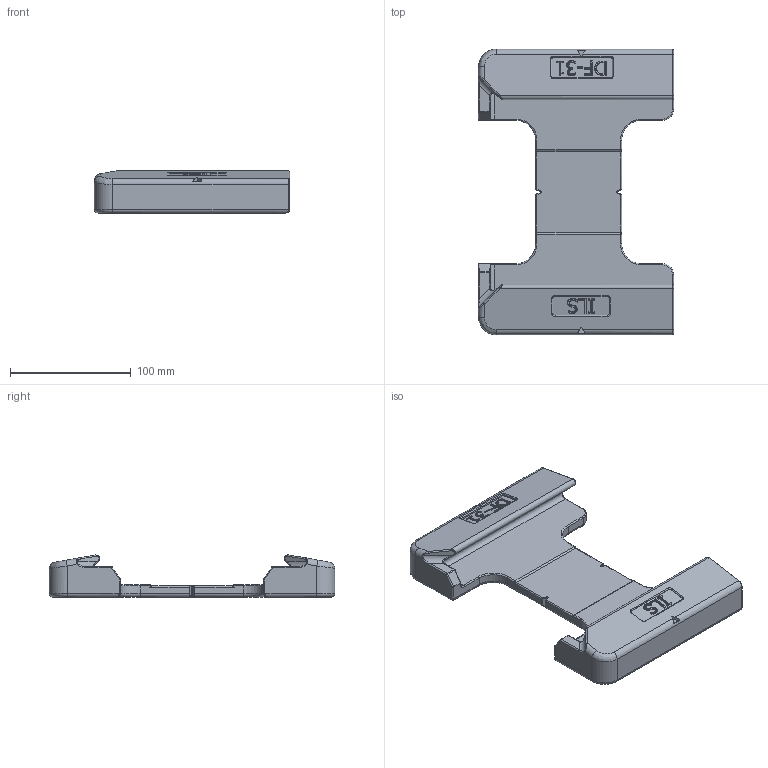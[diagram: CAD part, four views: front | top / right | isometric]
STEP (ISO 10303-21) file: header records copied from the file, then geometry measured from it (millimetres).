
FILE_DESCRIPTION(/* description */ (''),/* implementation_level */ '2;1');
FILE_NAME(/* name */ 'O:\ils2000\Natallia\INVENTOR\DF-31.stp',/* time_stamp */ '2015-09-02T15:57:15+02:00',/* author */ ('natallia'),/* organization */ (''),/* preprocessor_version */ 'ST-DEVELOPER v15.2',/* originating_system */ 'Autodesk Inventor 2014',/* authorisation */ '');
FILE_SCHEMA (('AUTOMOTIVE_DESIGN { 1 0 10303 214 3 1 1 }'));
Length unit declared in the file: millimetre
Products named in the file (1): DF-31
Bounding box: 162 x 237 x 34.86 mm (x, y, z)
Volume: 506371.3 mm3; surface area: 86605.7 mm2
Topology: 1 solids, 1 shells, 448 faces, 1082 edges, 637 vertices
Faces by surface type: cylinder 150, bspline 133, plane 121, torus 34, sphere 10
Entity records: 16214 total; most frequent: CARTESIAN_POINT 6319, ORIENTED_EDGE 2146, DIRECTION 1899, EDGE_CURVE 1073, AXIS2_PLACEMENT_3D 694, VERTEX_POINT 637, LINE 511, VECTOR 511
